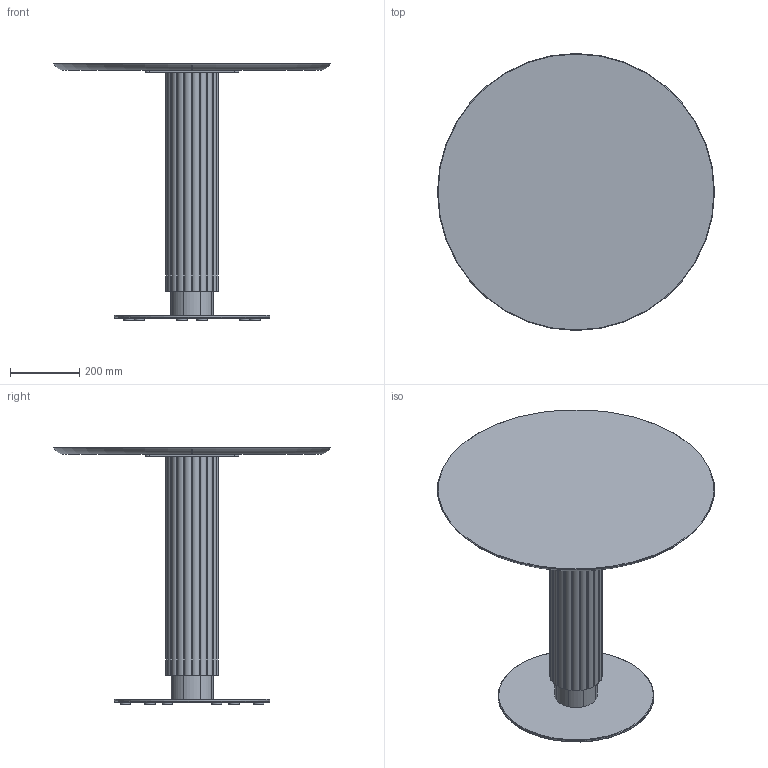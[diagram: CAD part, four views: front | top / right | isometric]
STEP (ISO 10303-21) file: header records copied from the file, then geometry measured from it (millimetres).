
FILE_DESCRIPTION( ('This file contains a STEP AP42 implementation' ,'as created by ZW3D STEP Interface translator.') ,'2;1' );
FILE_NAME( 'God - B_Rond - F1 - M3 - 700 x 700 x 750.stp' ,'24 912.113312', (''), ('ZWCAD Software Co.'), 'Version 1.0', 'ZW3D to STEP translator', '' );
FILE_SCHEMA(('AUTOMOTIVE_DESIGN { 1 0 10303 214 1 1 1 1 }'));
Length unit declared in the file: millimetre
Products named in the file (16): 0; PIED BISTROT PARAMETRIQUE_; SOCLE ACIER C Ø450 V.02_; SCL-D450-02_; PLA-R30A-01_; PLA-R30A-01; CROIX ACIER 370 V.02_; CRX-X370-02_; COLONNE ACIER Ø48.5 V.02_; TUB-D048-02_; PLA-R48A-01_; Colonne GODRON H700_; WUERTH 0276063020 Euro-screw 6.3x2 Verzinkt_; PLATEAU BISTROT PARAMETRIQUE_; insert_m6_13_; insert_m6_13
Assembly tree (25 placements, depth 3):
  0
  PIED BISTROT PARAMETRIQUE_
    SOCLE ACIER C Ø450 V.02_
      SCL-D450-02_
      PLA-R30A-01_
      PLA-R30A-01  x5
    CROIX ACIER 370 V.02_
      CRX-X370-02_
    COLONNE ACIER Ø48.5 V.02_
      TUB-D048-02_
      PLA-R48A-01_  x2
    Colonne GODRON H700_
    WUERTH 0276063020 Euro-screw 6.3x2 Verzinkt_
    PLATEAU BISTROT PARAMETRIQUE_
      insert_m6_13_  x2
      insert_m6_13  x6
Bounding box: 800 x 800 x 744 mm (x, y, z)
Volume: 22015597.5 mm3; surface area: 2775168.4 mm2
Topology: 29 solids, 29 shells, 656 faces, 1625 edges, 1042 vertices
Faces by surface type: plane 290, cylinder 197, bspline 121, cone 43, torus 5
Full cylindrical faces by diameter (mm): 4.88 x1, 6 x8, 6.3 x1, 8 x47, 12 x2, 14 x2, 30 x6, 44.5 x3, 48.5 x1, 450 x1
Entity records: 17286 total; most frequent: CARTESIAN_POINT 4453, ORIENTED_EDGE 2374, DIRECTION 2362, EDGE_CURVE 1187, AXIS2_PLACEMENT_3D 841, VERTEX_POINT 768, VECTOR 680, LINE 680
